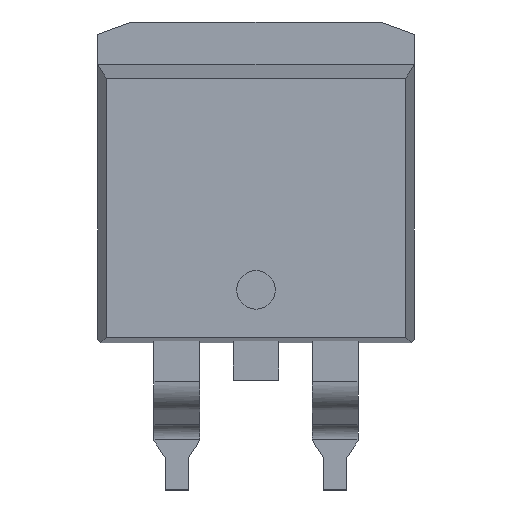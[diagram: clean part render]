
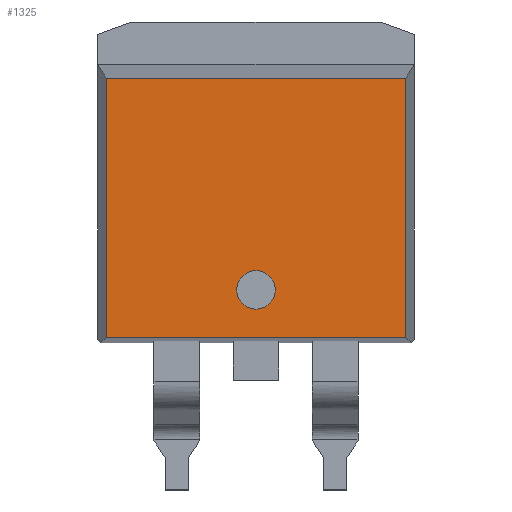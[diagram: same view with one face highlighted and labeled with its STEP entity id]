
A CAD part, top view. The second image highlights one B-rep face of the part: STEP entity #1325.
In plain terms, the highlighted planar face has unit normal (0, 0, 1).
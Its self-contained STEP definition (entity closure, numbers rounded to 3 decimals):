
#18=CIRCLE('',#1564,0.617);
#369=ORIENTED_EDGE('',*,*,#582,.T.);
#370=ORIENTED_EDGE('',*,*,#583,.T.);
#371=ORIENTED_EDGE('',*,*,#584,.T.);
#372=ORIENTED_EDGE('',*,*,#585,.T.);
#373=ORIENTED_EDGE('',*,*,#586,.T.);
#582=EDGE_CURVE('',#712,#712,#18,.T.);
#583=EDGE_CURVE('',#713,#714,#871,.T.);
#584=EDGE_CURVE('',#714,#715,#872,.T.);
#585=EDGE_CURVE('',#715,#716,#873,.T.);
#586=EDGE_CURVE('',#716,#713,#874,.T.);
#712=VERTEX_POINT('',#2275);
#713=VERTEX_POINT('',#2277);
#714=VERTEX_POINT('',#2278);
#715=VERTEX_POINT('',#2280);
#716=VERTEX_POINT('',#2282);
#871=LINE('',#2276,#1036);
#872=LINE('',#2279,#1037);
#873=LINE('',#2281,#1038);
#874=LINE('',#2283,#1039);
#1036=VECTOR('',#1892,1000.);
#1037=VECTOR('',#1893,1000.);
#1038=VECTOR('',#1894,1000.);
#1039=VECTOR('',#1895,1000.);
#1111=EDGE_LOOP('',(#369));
#1112=EDGE_LOOP('',(#370,#371,#372,#373));
#1186=FACE_BOUND('',#1111,.T.);
#1187=FACE_BOUND('',#1112,.T.);
#1253=PLANE('',#1563);
#1325=ADVANCED_FACE('',(#1186,#1187),#1253,.F.);
#1563=AXIS2_PLACEMENT_3D('',#2273,#1888,#1889);
#1564=AXIS2_PLACEMENT_3D('',#2274,#1890,#1891);
#1888=DIRECTION('',(0.,0.,-1.));
#1889=DIRECTION('',(-1.,0.,0.));
#1890=DIRECTION('',(0.,0.,-1.));
#1891=DIRECTION('',(0.,1.,0.));
#1892=DIRECTION('',(0.,-1.,0.));
#1893=DIRECTION('',(1.,0.,0.));
#1894=DIRECTION('',(0.,1.,0.));
#1895=DIRECTION('',(-1.,0.,0.));
#2273=CARTESIAN_POINT('',(0.,0.,3.171));
#2274=CARTESIAN_POINT('',(0.,-1.093,3.171));
#2275=CARTESIAN_POINT('',(0.,-0.475,3.171));
#2276=CARTESIAN_POINT('',(-4.803,0.,3.171));
#2277=CARTESIAN_POINT('',(-4.803,5.694,3.171));
#2278=CARTESIAN_POINT('',(-4.803,-2.609,3.171));
#2279=CARTESIAN_POINT('',(0.,-2.609,3.171));
#2280=CARTESIAN_POINT('',(4.803,-2.609,3.171));
#2281=CARTESIAN_POINT('',(4.803,0.,3.171));
#2282=CARTESIAN_POINT('',(4.803,5.694,3.171));
#2283=CARTESIAN_POINT('',(0.,5.694,3.171));
